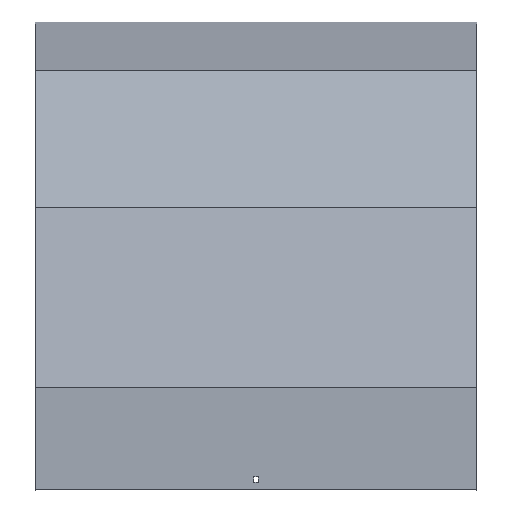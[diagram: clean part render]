
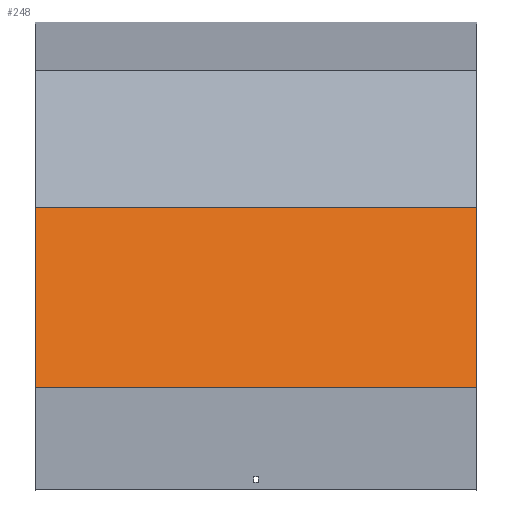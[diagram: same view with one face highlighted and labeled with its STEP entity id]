
A CAD part, top view. The second image highlights one B-rep face of the part: STEP entity #248.
In plain terms, the highlighted planar face has unit normal (0, 0.259, 0.966).
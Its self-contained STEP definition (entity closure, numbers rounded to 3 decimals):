
#10 = EDGE_CURVE ( 'NONE', #1003, #901, #1074, .T. ) ;
#19 = DIRECTION ( 'NONE',  ( -1., 0., 0. ) ) ;
#121 = VECTOR ( 'NONE', #433, 1000. ) ;
#126 = ORIENTED_EDGE ( 'NONE', *, *, #10, .T. ) ;
#155 = DIRECTION ( 'NONE',  ( 0., -0.259, -0.966 ) ) ;
#166 = CARTESIAN_POINT ( 'NONE',  ( 351.5, -281.047, 669.896 ) ) ;
#213 = EDGE_CURVE ( 'NONE', #474, #1003, #461, .T. ) ;
#227 = ORIENTED_EDGE ( 'NONE', *, *, #844, .F. ) ;
#248 = ADVANCED_FACE ( 'NONE', ( #1097 ), #414, .F. ) ;
#351 = CARTESIAN_POINT ( 'NONE',  ( 351.5, -562.743, 745.376 ) ) ;
#414 = PLANE ( 'NONE',  #437 ) ;
#418 = DIRECTION ( 'NONE',  ( 0., 0.966, -0.259 ) ) ;
#429 = VERTEX_POINT ( 'NONE', #477 ) ;
#433 = DIRECTION ( 'NONE',  ( 0., -0.966, 0.259 ) ) ;
#437 = AXIS2_PLACEMENT_3D ( 'NONE', #754, #155, #418 ) ;
#444 = LINE ( 'NONE', #351, #576 ) ;
#453 = VECTOR ( 'NONE', #19, 1000. ) ;
#461 = LINE ( 'NONE', #800, #453 ) ;
#472 = ORIENTED_EDGE ( 'NONE', *, *, #213, .T. ) ;
#474 = VERTEX_POINT ( 'NONE', #960 ) ;
#477 = CARTESIAN_POINT ( 'NONE',  ( 351.5, -562.743, 745.376 ) ) ;
#514 = DIRECTION ( 'NONE',  ( 0., -0.966, 0.259 ) ) ;
#576 = VECTOR ( 'NONE', #596, 1000. ) ;
#596 = DIRECTION ( 'NONE',  ( -1., 0., 0. ) ) ;
#642 = ORIENTED_EDGE ( 'NONE', *, *, #788, .F. ) ;
#666 = EDGE_LOOP ( 'NONE', ( #126, #227, #642, #472 ) ) ;
#721 = CARTESIAN_POINT ( 'NONE',  ( -351.5, -562.743, 745.376 ) ) ;
#726 = CARTESIAN_POINT ( 'NONE',  ( -351.5, -275.871, 668.509 ) ) ;
#745 = VECTOR ( 'NONE', #514, 1000. ) ;
#754 = CARTESIAN_POINT ( 'NONE',  ( 351.5, -281.047, 669.896 ) ) ;
#788 = EDGE_CURVE ( 'NONE', #474, #429, #935, .T. ) ;
#800 = CARTESIAN_POINT ( 'NONE',  ( 351.5, -275.871, 668.509 ) ) ;
#844 = EDGE_CURVE ( 'NONE', #429, #901, #444, .T. ) ;
#901 = VERTEX_POINT ( 'NONE', #721 ) ;
#935 = LINE ( 'NONE', #166, #745 ) ;
#960 = CARTESIAN_POINT ( 'NONE',  ( 351.5, -275.871, 668.509 ) ) ;
#984 = CARTESIAN_POINT ( 'NONE',  ( -351.5, -281.047, 669.896 ) ) ;
#1003 = VERTEX_POINT ( 'NONE', #726 ) ;
#1074 = LINE ( 'NONE', #984, #121 ) ;
#1097 = FACE_OUTER_BOUND ( 'NONE', #666, .T. ) ;
